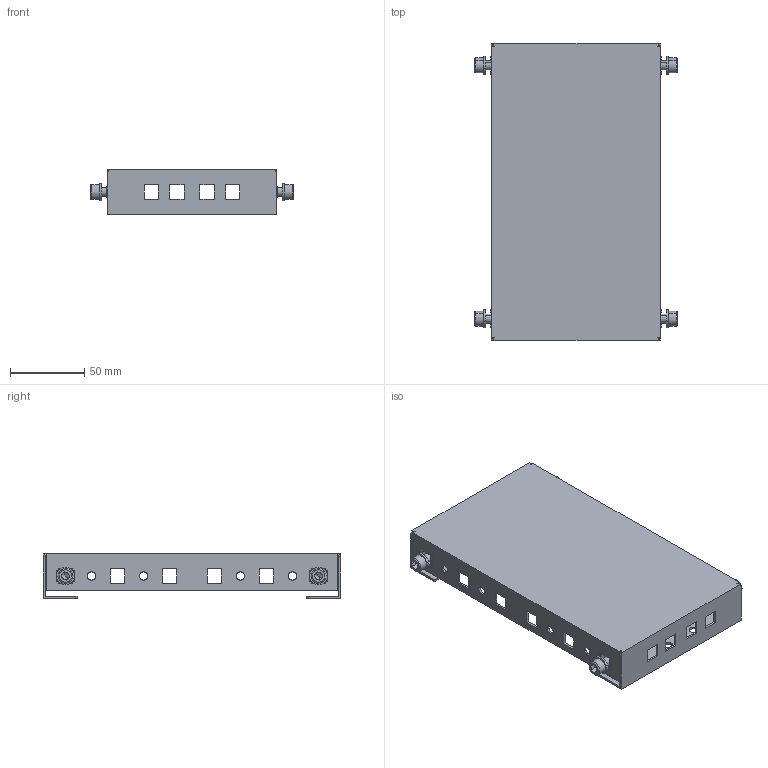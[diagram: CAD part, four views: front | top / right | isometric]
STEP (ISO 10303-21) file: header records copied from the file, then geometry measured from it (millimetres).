
FILE_DESCRIPTION(('Open CASCADE Model'),'2;1');
FILE_NAME('Open CASCADE Shape Model','2025-02-07T17:53:27',('Author'),( 'Open CASCADE'),'Open CASCADE STEP processor 7.8','Open CASCADE 7.8' ,'Unknown');
FILE_SCHEMA(('AUTOMOTIVE_DESIGN { 1 0 10303 214 1 1 1 1 }'));
Length unit declared in the file: millimetre
Products named in the file (5): Compound1; Solid1; Solid2; Solid3; Solid4
Assembly tree (13 placements, depth 2):
  Compound1
    Solid1
    Solid2  x4
    Solid3  x4
    Solid4  x4
Bounding box: 136.2 x 200 x 30 mm (x, y, z)
Volume: 67615.7 mm3; surface area: 92781.2 mm2
Topology: 13 solids, 13 shells, 724 faces, 2018 edges, 1312 vertices
Faces by surface type: plane 402, cylinder 258, cone 32, bspline 16, torus 16
Full cylindrical faces by diameter (mm): 5.5 x8, 6.5 x10
Entity records: 20775 total; most frequent: CARTESIAN_POINT 13117, ORIENTED_EDGE 1644, DIRECTION 1432, EDGE_CURVE 822, LINE 546, VECTOR 546, VERTEX_POINT 541, AXIS2_PLACEMENT_3D 443
